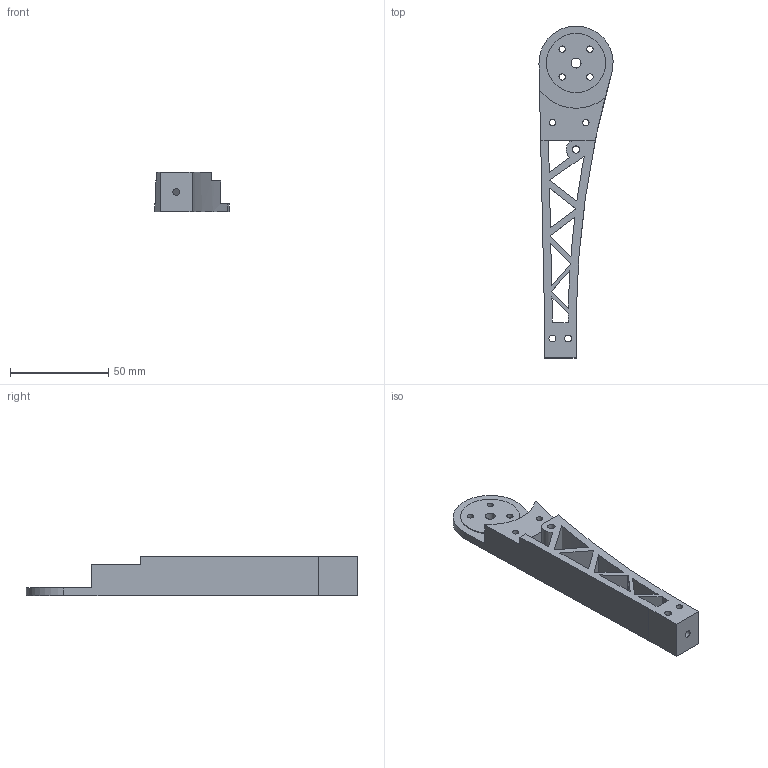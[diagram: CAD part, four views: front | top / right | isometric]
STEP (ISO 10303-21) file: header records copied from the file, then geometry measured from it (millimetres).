
FILE_DESCRIPTION(/* description */ (''),/* implementation_level */ '2;1');
FILE_NAME(/* name */ 'D:\3D печать\Мои проекты\Archy MK 2\STEP\плечо V2.stp',/* time_stamp */ '2019-03-20T22:05:06+06:00',/* author */ ('Пользователь'),/* organization */ (''),/* preprocessor_version */ 'ST-DEVELOPER v16.5',/* originating_system */ 'Autodesk Inventor 2017',/* authorisation */ '');
FILE_SCHEMA (('AUTOMOTIVE_DESIGN { 1 0 10303 214 3 1 1 }'));
Length unit declared in the file: millimetre
Products named in the file (1): плечо V2
Bounding box: 37.65 x 168.73 x 20 mm (x, y, z)
Volume: 39507.6 mm3; surface area: 21227.1 mm2
Topology: 1 solids, 1 shells, 83 faces, 236 edges, 158 vertices
Faces by surface type: plane 57, cylinder 22, cone 4
Full cylindrical faces by diameter (mm): 3.2 x6, 3.5 x3, 3.7 x1, 5.1 x1, 30 x1
Entity records: 2641 total; most frequent: CARTESIAN_POINT 446, DIRECTION 431, ORIENTED_EDGE 424, EDGE_CURVE 212, LINE 161, VECTOR 161, VERTEX_POINT 150, EDGE_LOOP 138
